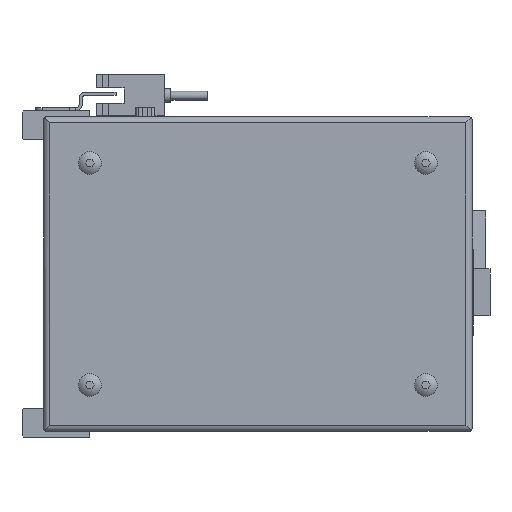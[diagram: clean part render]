
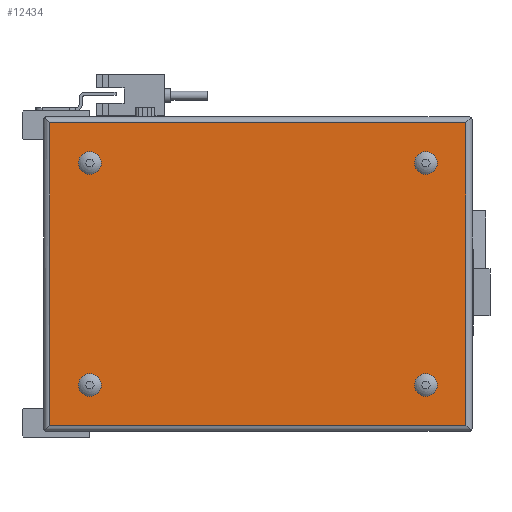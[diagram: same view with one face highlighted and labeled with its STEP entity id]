
A CAD part, left-side view. The second image highlights one B-rep face of the part: STEP entity #12434.
In plain terms, the highlighted planar face has unit normal (-1, 0, 0).
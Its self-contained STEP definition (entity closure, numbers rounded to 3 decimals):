
#344=PLANE('',#13335);
#1066=LINE('',#18891,#2351);
#1067=LINE('',#18894,#2352);
#1068=LINE('',#18896,#2353);
#1069=LINE('',#18898,#2354);
#2351=VECTOR('',#15216,1000.);
#2352=VECTOR('',#15217,1000.);
#2353=VECTOR('',#15218,1000.);
#2354=VECTOR('',#15219,1000.);
#4211=ORIENTED_EDGE('',*,*,#7320,.F.);
#4212=ORIENTED_EDGE('',*,*,#7321,.F.);
#4213=ORIENTED_EDGE('',*,*,#7322,.F.);
#4214=ORIENTED_EDGE('',*,*,#7323,.F.);
#4215=ORIENTED_EDGE('',*,*,#7324,.T.);
#4216=ORIENTED_EDGE('',*,*,#7325,.F.);
#4217=ORIENTED_EDGE('',*,*,#7326,.F.);
#4218=ORIENTED_EDGE('',*,*,#7327,.T.);
#7320=EDGE_CURVE('',#8966,#8966,#9958,.F.);
#7321=EDGE_CURVE('',#8967,#8967,#9959,.F.);
#7322=EDGE_CURVE('',#8968,#8968,#9960,.F.);
#7323=EDGE_CURVE('',#8969,#8969,#9961,.F.);
#7324=EDGE_CURVE('',#8970,#8971,#1066,.F.);
#7325=EDGE_CURVE('',#8972,#8971,#1067,.T.);
#7326=EDGE_CURVE('',#8973,#8972,#1068,.F.);
#7327=EDGE_CURVE('',#8973,#8970,#1069,.T.);
#8966=VERTEX_POINT('',#18884);
#8967=VERTEX_POINT('',#18886);
#8968=VERTEX_POINT('',#18888);
#8969=VERTEX_POINT('',#18890);
#8970=VERTEX_POINT('',#18892);
#8971=VERTEX_POINT('',#18893);
#8972=VERTEX_POINT('',#18895);
#8973=VERTEX_POINT('',#18897);
#9958=CIRCLE('',#13336,3.7);
#9959=CIRCLE('',#13337,3.7);
#9960=CIRCLE('',#13338,3.7);
#9961=CIRCLE('',#13339,3.7);
#10503=EDGE_LOOP('',(#4211));
#10504=EDGE_LOOP('',(#4212));
#10505=EDGE_LOOP('',(#4213));
#10506=EDGE_LOOP('',(#4214));
#10507=EDGE_LOOP('',(#4215,#4216,#4217,#4218));
#11398=FACE_BOUND('',#10503,.T.);
#11399=FACE_BOUND('',#10504,.T.);
#11400=FACE_BOUND('',#10505,.T.);
#11401=FACE_BOUND('',#10506,.T.);
#11402=FACE_BOUND('',#10507,.T.);
#12434=ADVANCED_FACE('',(#11398,#11399,#11400,#11401,#11402),#344,.F.);
#13335=AXIS2_PLACEMENT_3D('',#18882,#15206,#15207);
#13336=AXIS2_PLACEMENT_3D('',#18883,#15208,#15209);
#13337=AXIS2_PLACEMENT_3D('',#18885,#15210,#15211);
#13338=AXIS2_PLACEMENT_3D('',#18887,#15212,#15213);
#13339=AXIS2_PLACEMENT_3D('',#18889,#15214,#15215);
#15206=DIRECTION('',(1.,0.,0.));
#15207=DIRECTION('',(0.,0.,-1.));
#15208=DIRECTION('',(1.,0.,0.));
#15209=DIRECTION('',(0.,0.,-1.));
#15210=DIRECTION('',(1.,0.,0.));
#15211=DIRECTION('',(0.,0.,-1.));
#15212=DIRECTION('',(1.,0.,0.));
#15213=DIRECTION('',(0.,0.,-1.));
#15214=DIRECTION('',(1.,0.,0.));
#15215=DIRECTION('',(0.,0.,-1.));
#15216=DIRECTION('',(0.,-1.,0.));
#15217=DIRECTION('',(0.,0.,1.));
#15218=DIRECTION('',(0.,-1.,0.));
#15219=DIRECTION('',(0.,0.,1.));
#18882=CARTESIAN_POINT('',(-52.,-75.,50.));
#18883=CARTESIAN_POINT('',(-52.,-61.,36.));
#18884=CARTESIAN_POINT('',(-52.,-61.,32.3));
#18885=CARTESIAN_POINT('',(-52.,-61.,-36.));
#18886=CARTESIAN_POINT('',(-52.,-61.,-39.7));
#18887=CARTESIAN_POINT('',(-52.,48.,36.));
#18888=CARTESIAN_POINT('',(-52.,48.,32.3));
#18889=CARTESIAN_POINT('',(-52.,48.,-36.));
#18890=CARTESIAN_POINT('',(-52.,48.,-39.7));
#18891=CARTESIAN_POINT('',(-52.,139.,49.));
#18892=CARTESIAN_POINT('',(-52.,-74.,49.));
#18893=CARTESIAN_POINT('',(-52.,61.,49.));
#18894=CARTESIAN_POINT('',(-52.,61.,-102.));
#18895=CARTESIAN_POINT('',(-52.,61.,-49.));
#18896=CARTESIAN_POINT('',(-52.,139.,-49.));
#18897=CARTESIAN_POINT('',(-52.,-74.,-49.));
#18898=CARTESIAN_POINT('',(-52.,-74.,-102.));
